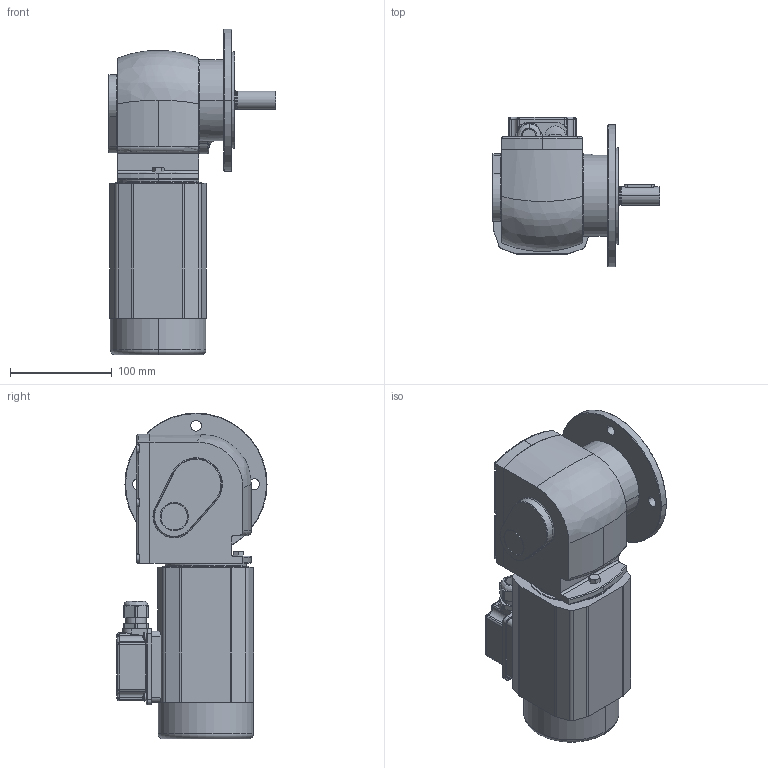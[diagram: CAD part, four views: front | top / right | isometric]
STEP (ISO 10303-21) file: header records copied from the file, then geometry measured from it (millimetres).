
FILE_DESCRIPTION (( 'STEP AP214' ), '1' );
FILE_NAME ('SN13F_120W_Gleichstrom-Motor_A.STEP', '2022-08-05T07:25:40', ( '' ), ( '' ), 'SwSTEP 2.0', 'SolidWorks 2021', '' );
FILE_SCHEMA (( 'AUTOMOTIVE_DESIGN' ));
Length unit declared in the file: millimetre
Products named in the file (15): hex screw gradec_iso_ISO 4018 - M6 x 20-NC; 03-M-252 I 120W_3000Upm; slotted cheese head screw_iso_ISO 1207 - M5 x 20 - 20C; PF_A6x6x30; SN13F_3D-Export; 13F-W-004_3D-Export; 13-G-006_3D-Export; SN13F_120W_Gleichstrom-Motor_A; slotted cheese head screw_iso_ISO 1207 - M5 x 12 - 12C; 13F-F-006; socket set screw flat point_iso_ISO 4026 - M6 x 30-C; slotted cheese head screw_din_DIN EN ISO 1207 - M5 x 20 - 20C; 13-D-003_3D-Export; K_26x6,5; NBR_WDR_20x42x7
Assembly tree (26 placements, depth 3):
  SN13F_120W_Gleichstrom-Motor_A
    SN13F_3D-Export
      13-G-006_3D-Export
      13-D-003_3D-Export
      13F-W-004_3D-Export
      13F-F-006
      PF_A6x6x30
      K_26x6,5
      NBR_WDR_20x42x7
      slotted cheese head screw_din_DIN EN ISO 1207 - M5 x 20 - 20C  x4
      slotted cheese head screw_iso_ISO 1207 - M5 x 12 - 12C  x8
      slotted cheese head screw_iso_ISO 1207 - M5 x 20 - 20C  x2
      hex screw gradec_iso_ISO 4018 - M6 x 20-NC
      socket set screw flat point_iso_ISO 4026 - M6 x 30-C  x2
    03-M-252 I 120W_3000Upm
Bounding box: 164.7 x 147.9 x 321 mm (x, y, z)
Volume: 2929947.2 mm3; surface area: 261729.6 mm2
Topology: 26 solids, 27 shells, 1049 faces, 2608 edges, 1656 vertices
Faces by surface type: plane 350, cylinder 330, cone 181, torus 118, bspline 46, sphere 24
Entity records: 30015 total; most frequent: CARTESIAN_POINT 7433, DIRECTION 4652, ORIENTED_EDGE 4404, EDGE_CURVE 2202, AXIS2_PLACEMENT_3D 1867, VERTEX_POINT 1416, EDGE_LOOP 1010, CIRCLE 992
